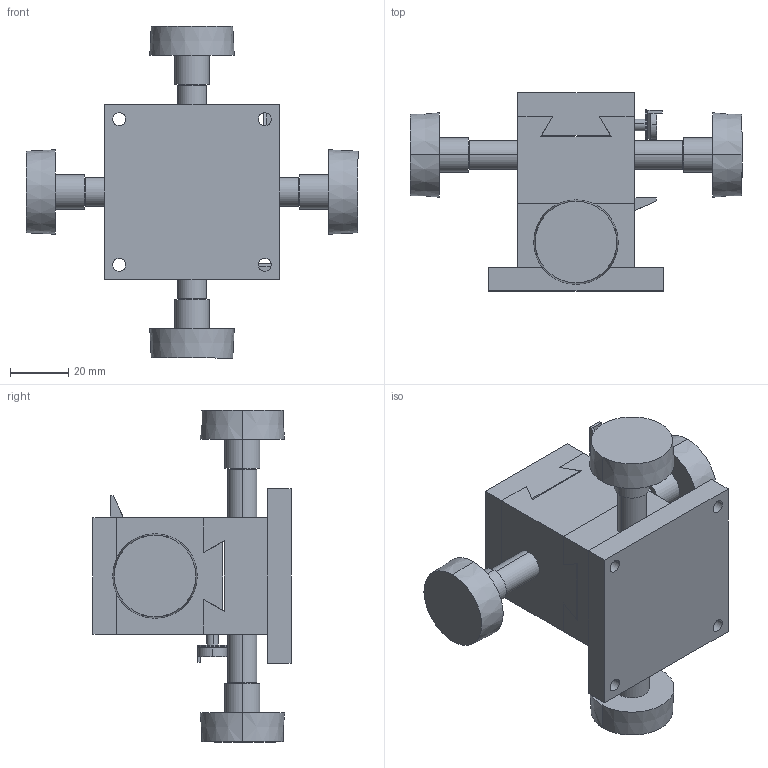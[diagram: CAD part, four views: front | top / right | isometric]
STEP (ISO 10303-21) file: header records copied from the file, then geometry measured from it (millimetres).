
FILE_DESCRIPTION (( 'STEP AP203' ), '1' );
FILE_NAME ('LD-412W.STEP', '2008-03-03T08:35:23', ( '' ), ( '' ), 'SwSTEP 2.0', 'SolidWorks 2007', '' );
FILE_SCHEMA (( 'CONFIG_CONTROL_DESIGN' ));
Length unit declared in the file: millimetre
Products named in the file (4): LD-412W; LD-412W-3_蹬怮椔; LD-412W-2_蹬怮椔; LD-412W-1_蹬怮椔
Assembly tree (3 placements, depth 2):
  LD-412W
    LD-412W-3_蹬怮椔
    LD-412W-2_蹬怮椔
    LD-412W-1_蹬怮椔
Bounding box: 114 x 68 x 114 mm (x, y, z)
Volume: 157060.2 mm3; surface area: 44095.2 mm2
Topology: 3 solids, 3 shells, 196 faces, 456 edges, 302 vertices
Faces by surface type: plane 108, cylinder 80, cone 8
Entity records: 6092 total; most frequent: DIRECTION 1042, CARTESIAN_POINT 960, ORIENTED_EDGE 912, EDGE_CURVE 456, AXIS2_PLACEMENT_3D 384, VERTEX_POINT 302, VECTOR 274, LINE 274
